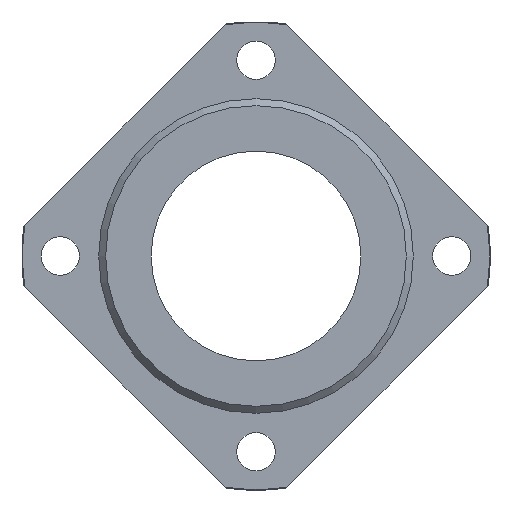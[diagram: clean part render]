
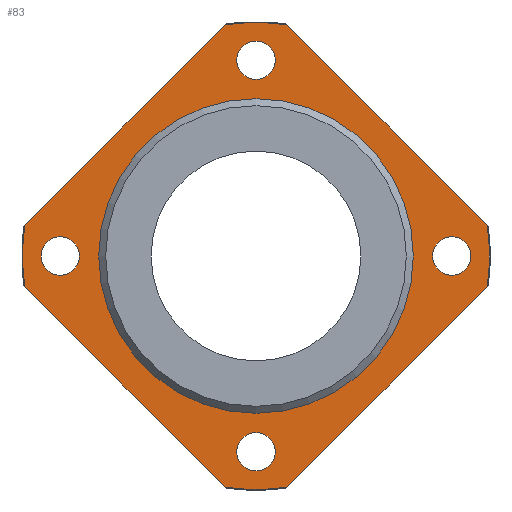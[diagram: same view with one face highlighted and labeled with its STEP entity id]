
A CAD part, left-side view. The second image highlights one B-rep face of the part: STEP entity #83.
In plain terms, the highlighted planar face has unit normal (-1, 0, 0).
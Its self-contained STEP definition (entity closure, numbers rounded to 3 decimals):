
#83=ADVANCED_FACE('',(#138,#139,#140,#141,#142,#143),#144,.F.);
#138=FACE_BOUND('',#241,.T.);
#139=FACE_BOUND('',#242,.T.);
#140=FACE_BOUND('',#243,.T.);
#141=FACE_BOUND('',#244,.T.);
#142=FACE_BOUND('',#245,.T.);
#143=FACE_OUTER_BOUND('',#246,.T.);
#144=PLANE('',#247);
#241=EDGE_LOOP('',(#384));
#242=EDGE_LOOP('',(#385));
#243=EDGE_LOOP('',(#386));
#244=EDGE_LOOP('',(#387));
#245=EDGE_LOOP('',(#388));
#246=EDGE_LOOP('',(#389,#390,#391,#392,#393,#394,#395,#396));
#247=AXIS2_PLACEMENT_3D('',#397,#398,#399);
#384=ORIENTED_EDGE('',*,*,#611,.T.);
#385=ORIENTED_EDGE('',*,*,#612,.T.);
#386=ORIENTED_EDGE('',*,*,#613,.T.);
#387=ORIENTED_EDGE('',*,*,#597,.T.);
#388=ORIENTED_EDGE('',*,*,#595,.T.);
#389=ORIENTED_EDGE('',*,*,#614,.F.);
#390=ORIENTED_EDGE('',*,*,#585,.F.);
#391=ORIENTED_EDGE('',*,*,#591,.F.);
#392=ORIENTED_EDGE('',*,*,#615,.F.);
#393=ORIENTED_EDGE('',*,*,#616,.F.);
#394=ORIENTED_EDGE('',*,*,#617,.F.);
#395=ORIENTED_EDGE('',*,*,#579,.F.);
#396=ORIENTED_EDGE('',*,*,#618,.F.);
#397=CARTESIAN_POINT('',(-24.0,45.0,0.0));
#398=DIRECTION('',(1.0,0.0,0.0));
#399=DIRECTION('',(0.0,0.0,-1.0));
#579=EDGE_CURVE('',#655,#657,#658,.T.);
#585=EDGE_CURVE('',#667,#663,#669,.T.);
#591=EDGE_CURVE('',#679,#667,#681,.T.);
#595=EDGE_CURVE('',#687,#687,#688,.T.);
#597=EDGE_CURVE('',#691,#691,#692,.T.);
#611=EDGE_CURVE('',#717,#717,#718,.T.);
#612=EDGE_CURVE('',#719,#719,#720,.T.);
#613=EDGE_CURVE('',#721,#721,#722,.T.);
#614=EDGE_CURVE('',#663,#723,#724,.T.);
#615=EDGE_CURVE('',#725,#679,#726,.T.);
#616=EDGE_CURVE('',#727,#725,#728,.T.);
#617=EDGE_CURVE('',#657,#727,#729,.T.);
#618=EDGE_CURVE('',#723,#655,#730,.T.);
#655=VERTEX_POINT('',#791);
#657=VERTEX_POINT('',#796);
#658=LINE('',#797,#798);
#663=VERTEX_POINT('',#807);
#667=VERTEX_POINT('',#814);
#669=CIRCLE('',#819,66.746);
#679=VERTEX_POINT('',#837);
#681=LINE('',#842,#843);
#687=VERTEX_POINT('',#850);
#688=CIRCLE('',#851,5.5);
#691=VERTEX_POINT('',#854);
#692=CIRCLE('',#855,5.5);
#717=VERTEX_POINT('',#882);
#718=CIRCLE('',#883,45.0);
#719=VERTEX_POINT('',#884);
#720=CIRCLE('',#885,5.5);
#721=VERTEX_POINT('',#886);
#722=CIRCLE('',#887,5.5);
#723=VERTEX_POINT('',#888);
#724=LINE('',#889,#890);
#725=VERTEX_POINT('',#891);
#726=CIRCLE('',#892,66.746);
#727=VERTEX_POINT('',#893);
#728=LINE('',#894,#895);
#729=CIRCLE('',#896,66.746);
#730=CIRCLE('',#897,66.746);
#791=CARTESIAN_POINT('',(-24.0,66.165,8.788));
#796=CARTESIAN_POINT('',(-24.0,8.788,66.165));
#797=CARTESIAN_POINT('',(-24.0,59.977,14.977));
#798=VECTOR('',#968,1.0);
#807=CARTESIAN_POINT('',(-24.0,8.788,-66.165));
#814=CARTESIAN_POINT('',(-24.0,-8.788,-66.165));
#819=AXIS2_PLACEMENT_3D('',#973,#974,#975);
#837=CARTESIAN_POINT('',(-24.0,-66.165,-8.788));
#842=CARTESIAN_POINT('',(-24.0,-14.977,-59.977));
#843=VECTOR('',#978,1.0);
#850=CARTESIAN_POINT('',(-24.0,56.0,-5.5));
#851=AXIS2_PLACEMENT_3D('',#986,#987,#988);
#854=CARTESIAN_POINT('',(-24.0,0.0,-61.5));
#855=AXIS2_PLACEMENT_3D('',#992,#993,#994);
#882=CARTESIAN_POINT('',(-24.0,0.0,-45.0));
#883=AXIS2_PLACEMENT_3D('',#1030,#1031,#1032);
#884=CARTESIAN_POINT('',(-24.0,0.0,50.5));
#885=AXIS2_PLACEMENT_3D('',#1033,#1034,#1035);
#886=CARTESIAN_POINT('',(-24.0,-56.0,-5.5));
#887=AXIS2_PLACEMENT_3D('',#1036,#1037,#1038);
#888=CARTESIAN_POINT('',(-24.0,66.165,-8.788));
#889=CARTESIAN_POINT('',(-24.0,59.977,-14.977));
#890=VECTOR('',#1039,1.0);
#891=CARTESIAN_POINT('',(-24.0,-66.165,8.788));
#892=AXIS2_PLACEMENT_3D('',#1040,#1041,#1042);
#893=CARTESIAN_POINT('',(-24.0,-8.788,66.165));
#894=CARTESIAN_POINT('',(-24.0,-14.977,59.977));
#895=VECTOR('',#1043,1.0);
#896=AXIS2_PLACEMENT_3D('',#1044,#1045,#1046);
#897=AXIS2_PLACEMENT_3D('',#1047,#1048,#1049);
#968=DIRECTION('',(0.0,-0.707,0.707));
#973=CARTESIAN_POINT('',(-24.0,0.0,0.0));
#974=DIRECTION('',(1.0,0.0,0.0));
#975=DIRECTION('',(0.0,0.0,-1.0));
#978=DIRECTION('',(0.0,0.707,-0.707));
#986=CARTESIAN_POINT('',(-24.0,56.0,0.0));
#987=DIRECTION('',(1.0,0.0,0.0));
#988=DIRECTION('',(0.0,0.0,-1.0));
#992=CARTESIAN_POINT('',(-24.0,0.0,-56.0));
#993=DIRECTION('',(1.0,0.0,0.0));
#994=DIRECTION('',(0.0,0.0,-1.0));
#1030=CARTESIAN_POINT('',(-24.0,0.0,0.0));
#1031=DIRECTION('',(1.0,0.0,0.0));
#1032=DIRECTION('',(0.0,0.0,-1.0));
#1033=CARTESIAN_POINT('',(-24.0,0.0,56.0));
#1034=DIRECTION('',(1.0,0.0,0.0));
#1035=DIRECTION('',(0.0,0.0,-1.0));
#1036=CARTESIAN_POINT('',(-24.0,-56.0,0.0));
#1037=DIRECTION('',(1.0,0.0,0.0));
#1038=DIRECTION('',(0.0,0.0,-1.0));
#1039=DIRECTION('',(0.0,0.707,0.707));
#1040=CARTESIAN_POINT('',(-24.0,0.0,0.0));
#1041=DIRECTION('',(1.0,0.0,0.0));
#1042=DIRECTION('',(0.0,0.0,-1.0));
#1043=DIRECTION('',(0.0,-0.707,-0.707));
#1044=CARTESIAN_POINT('',(-24.0,0.0,0.0));
#1045=DIRECTION('',(1.0,0.0,0.0));
#1046=DIRECTION('',(0.0,0.0,-1.0));
#1047=CARTESIAN_POINT('',(-24.0,0.0,0.0));
#1048=DIRECTION('',(1.0,0.0,0.0));
#1049=DIRECTION('',(0.0,0.0,-1.0));
